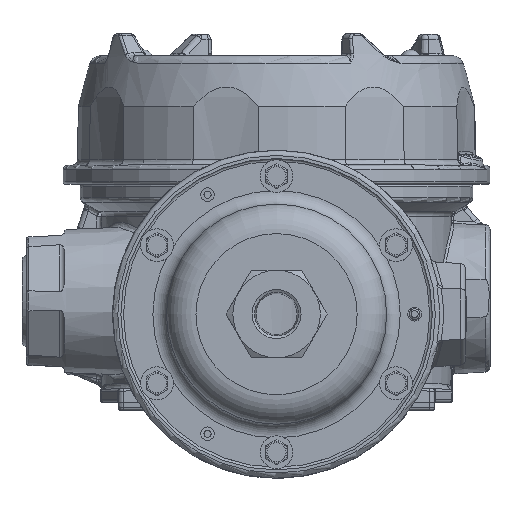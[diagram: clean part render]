
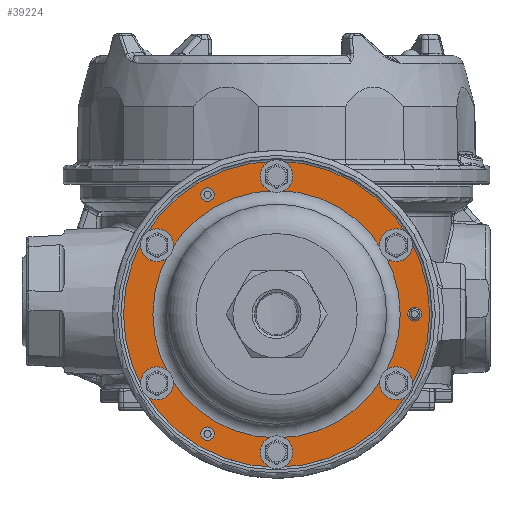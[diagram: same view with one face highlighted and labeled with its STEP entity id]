
A CAD part, top view. The second image highlights one B-rep face of the part: STEP entity #39224.
In plain terms, the highlighted planar face has unit normal (0, 0, 1).
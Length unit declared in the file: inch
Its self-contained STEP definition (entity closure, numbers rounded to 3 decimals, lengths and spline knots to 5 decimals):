
#68 = CARTESIAN_POINT ( 'NONE',  ( -0.828, 1.43414, 4.67916 ) ) ;
#617 = EDGE_LOOP ( 'NONE', ( #3604 ) ) ;
#1641 = EDGE_LOOP ( 'NONE', ( #21512 ) ) ;
#2481 = ORIENTED_EDGE ( 'NONE', *, *, #11905, .F. ) ;
#2584 = EDGE_CURVE ( 'NONE', #19072, #19072, #44091, .T. ) ;
#2721 = VERTEX_POINT ( 'NONE', #39652 ) ;
#2890 = EDGE_LOOP ( 'NONE', ( #19109 ) ) ;
#3604 = ORIENTED_EDGE ( 'NONE', *, *, #20479, .F. ) ;
#3993 = CIRCLE ( 'NONE', #31168, 0.0865 ) ;
#4440 = FACE_BOUND ( 'NONE', #39329, .T. ) ;
#4566 = CIRCLE ( 'NONE', #21629, 0.078 ) ;
#4722 = AXIS2_PLACEMENT_3D ( 'NONE', #4817, #19659, #22804 ) ;
#4817 = CARTESIAN_POINT ( 'NONE',  ( 1.578, 0., 4.67916 ) ) ;
#4920 = FACE_BOUND ( 'NONE', #6723, .T. ) ;
#5013 = DIRECTION ( 'NONE',  ( 0.5, -0.866, 0. ) ) ;
#5847 = DIRECTION ( 'NONE',  ( -0.5, 0.866, 0. ) ) ;
#6407 = ORIENTED_EDGE ( 'NONE', *, *, #43080, .F. ) ;
#6723 = EDGE_LOOP ( 'NONE', ( #2481 ) ) ;
#7296 = DIRECTION ( 'NONE',  ( -0.5, 0.866, 0. ) ) ;
#7684 = ORIENTED_EDGE ( 'NONE', *, *, #2584, .F. ) ;
#7791 = ORIENTED_EDGE ( 'NONE', *, *, #38861, .F. ) ;
#7997 = ORIENTED_EDGE ( 'NONE', *, *, #31312, .F. ) ;
#7998 = CIRCLE ( 'NONE', #42180, 0.0865 ) ;
#8109 = EDGE_LOOP ( 'NONE', ( #39704 ) ) ;
#8450 = CARTESIAN_POINT ( 'NONE',  ( -1.36659, -0.789, 4.67916 ) ) ;
#10758 = CIRCLE ( 'NONE', #37901, 1.41415 ) ;
#11067 = DIRECTION ( 'NONE',  ( 0., 0., 1. ) ) ;
#11438 = CARTESIAN_POINT ( 'NONE',  ( 1.36659, 0.789, 4.67916 ) ) ;
#11624 = VERTEX_POINT ( 'NONE', #29860 ) ;
#11625 = EDGE_LOOP ( 'NONE', ( #45273 ) ) ;
#11867 = VERTEX_POINT ( 'NONE', #12110 ) ;
#11905 = EDGE_CURVE ( 'NONE', #27804, #27804, #35121, .T. ) ;
#12110 = CARTESIAN_POINT ( 'NONE',  ( -1.40984, -0.71409, 4.67916 ) ) ;
#12210 = DIRECTION ( 'NONE',  ( 0., 0., -1. ) ) ;
#12303 = DIRECTION ( 'NONE',  ( 0., 0., -1. ) ) ;
#15030 = VERTEX_POINT ( 'NONE', #44913 ) ;
#15208 = CARTESIAN_POINT ( 'NONE',  ( -0.789, -1.36659, 4.67916 ) ) ;
#15619 = FACE_BOUND ( 'NONE', #22156, .T. ) ;
#16059 = CIRCLE ( 'NONE', #26134, 0.0865 ) ;
#16345 = CARTESIAN_POINT ( 'NONE',  ( 0., -1.578, 4.67916 ) ) ;
#16740 = AXIS2_PLACEMENT_3D ( 'NONE', #41167, #11067, #37029 ) ;
#17488 = AXIS2_PLACEMENT_3D ( 'NONE', #45110, #12303, #5013 ) ;
#17530 = EDGE_CURVE ( 'NONE', #2721, #2721, #47769, .T. ) ;
#18036 = AXIS2_PLACEMENT_3D ( 'NONE', #11438, #40828, #7296 ) ;
#18517 = AXIS2_PLACEMENT_3D ( 'NONE', #16345, #42085, #30935 ) ;
#19072 = VERTEX_POINT ( 'NONE', #68 ) ;
#19109 = ORIENTED_EDGE ( 'NONE', *, *, #26457, .F. ) ;
#19526 = FACE_OUTER_BOUND ( 'NONE', #11625, .T. ) ;
#19659 = DIRECTION ( 'NONE',  ( 0., 0., 1. ) ) ;
#19667 = VERTEX_POINT ( 'NONE', #45649 ) ;
#20108 = AXIS2_PLACEMENT_3D ( 'NONE', #27434, #30847, #45653 ) ;
#20479 = EDGE_CURVE ( 'NONE', #22656, #22656, #4566, .T. ) ;
#20695 = DIRECTION ( 'NONE',  ( 0., 0., 1. ) ) ;
#21240 = DIRECTION ( 'NONE',  ( -0.5, 0.866, 0. ) ) ;
#21512 = ORIENTED_EDGE ( 'NONE', *, *, #31358, .T. ) ;
#21629 = AXIS2_PLACEMENT_3D ( 'NONE', #15208, #29550, #37050 ) ;
#22156 = EDGE_LOOP ( 'NONE', ( #7791 ) ) ;
#22656 = VERTEX_POINT ( 'NONE', #44263 ) ;
#22804 = DIRECTION ( 'NONE',  ( -0.5, 0.866, 0. ) ) ;
#23057 = VERTEX_POINT ( 'NONE', #30594 ) ;
#23396 = FACE_BOUND ( 'NONE', #36064, .T. ) ;
#23628 = DIRECTION ( 'NONE',  ( 0., 0., -1. ) ) ;
#24544 = CARTESIAN_POINT ( 'NONE',  ( 1.36659, -0.789, 4.67916 ) ) ;
#26134 = AXIS2_PLACEMENT_3D ( 'NONE', #24544, #20695, #5847 ) ;
#26457 = EDGE_CURVE ( 'NONE', #42075, #42075, #47755, .T. ) ;
#26773 = CARTESIAN_POINT ( 'NONE',  ( -0.04325, -1.50309, 4.67916 ) ) ;
#27434 = CARTESIAN_POINT ( 'NONE',  ( -0.789, 1.36659, 4.67916 ) ) ;
#27746 = VERTEX_POINT ( 'NONE', #26773 ) ;
#27804 = VERTEX_POINT ( 'NONE', #38713 ) ;
#29550 = DIRECTION ( 'NONE',  ( 0., 0., 1. ) ) ;
#29860 = CARTESIAN_POINT ( 'NONE',  ( 1.539, 0.06755, 4.67916 ) ) ;
#30205 = FACE_BOUND ( 'NONE', #40318, .T. ) ;
#30453 = FACE_BOUND ( 'NONE', #1641, .T. ) ;
#30594 = CARTESIAN_POINT ( 'NONE',  ( 0.70707, -1.22469, 4.67916 ) ) ;
#30847 = DIRECTION ( 'NONE',  ( 0., 0., 1. ) ) ;
#30935 = DIRECTION ( 'NONE',  ( -0.5, 0.866, 0. ) ) ;
#30940 = FACE_BOUND ( 'NONE', #2890, .T. ) ;
#31168 = AXIS2_PLACEMENT_3D ( 'NONE', #44047, #43803, #21240 ) ;
#31312 = EDGE_CURVE ( 'NONE', #27746, #27746, #34799, .T. ) ;
#31358 = EDGE_CURVE ( 'NONE', #23057, #23057, #10758, .T. ) ;
#31985 = CIRCLE ( 'NONE', #4722, 0.078 ) ;
#34799 = CIRCLE ( 'NONE', #18517, 0.0865 ) ;
#34812 = FACE_BOUND ( 'NONE', #8109, .T. ) ;
#35121 = CIRCLE ( 'NONE', #18036, 0.0865 ) ;
#35244 = ORIENTED_EDGE ( 'NONE', *, *, #35308, .F. ) ;
#35308 = EDGE_CURVE ( 'NONE', #15030, #15030, #3993, .T. ) ;
#35497 = CARTESIAN_POINT ( 'NONE',  ( 0., 0., 4.67916 ) ) ;
#35870 = EDGE_CURVE ( 'NONE', #11624, #11624, #31985, .T. ) ;
#36064 = EDGE_LOOP ( 'NONE', ( #35244 ) ) ;
#37029 = DIRECTION ( 'NONE',  ( -0.5, 0.866, 0. ) ) ;
#37050 = DIRECTION ( 'NONE',  ( -0.5, 0.866, 0. ) ) ;
#37509 = AXIS2_PLACEMENT_3D ( 'NONE', #45257, #12210, #41356 ) ;
#37901 = AXIS2_PLACEMENT_3D ( 'NONE', #35497, #23628, #41839 ) ;
#38670 = FACE_BOUND ( 'NONE', #43475, .T. ) ;
#38713 = CARTESIAN_POINT ( 'NONE',  ( 1.32334, 0.86391, 4.67916 ) ) ;
#38861 = EDGE_CURVE ( 'NONE', #11867, #11867, #7998, .T. ) ;
#39224 = ADVANCED_FACE ( 'NONE', ( #34812, #30205, #45510, #4440, #38670, #4920, #30940, #23396, #15619, #19526, #30453 ), #45014, .F. ) ;
#39329 = EDGE_LOOP ( 'NONE', ( #7997 ) ) ;
#39652 = CARTESIAN_POINT ( 'NONE',  ( 0.875, -1.51554, 4.67916 ) ) ;
#39704 = ORIENTED_EDGE ( 'NONE', *, *, #35870, .F. ) ;
#40318 = EDGE_LOOP ( 'NONE', ( #7684 ) ) ;
#40828 = DIRECTION ( 'NONE',  ( 0., 0., 1. ) ) ;
#40986 = DIRECTION ( 'NONE',  ( -0.5, 0.866, 0. ) ) ;
#41167 = CARTESIAN_POINT ( 'NONE',  ( 0., 1.578, 4.67916 ) ) ;
#41356 = DIRECTION ( 'NONE',  ( 0.5, -0.866, 0. ) ) ;
#41718 = DIRECTION ( 'NONE',  ( 0., 0., 1. ) ) ;
#41839 = DIRECTION ( 'NONE',  ( 0.5, -0.866, 0. ) ) ;
#42075 = VERTEX_POINT ( 'NONE', #45491 ) ;
#42085 = DIRECTION ( 'NONE',  ( 0., 0., 1. ) ) ;
#42180 = AXIS2_PLACEMENT_3D ( 'NONE', #8450, #41718, #40986 ) ;
#43080 = EDGE_CURVE ( 'NONE', #19667, #19667, #16059, .T. ) ;
#43475 = EDGE_LOOP ( 'NONE', ( #6407 ) ) ;
#43803 = DIRECTION ( 'NONE',  ( 0., 0., 1. ) ) ;
#44047 = CARTESIAN_POINT ( 'NONE',  ( -1.36659, 0.789, 4.67916 ) ) ;
#44091 = CIRCLE ( 'NONE', #20108, 0.078 ) ;
#44263 = CARTESIAN_POINT ( 'NONE',  ( -0.828, -1.29904, 4.67916 ) ) ;
#44913 = CARTESIAN_POINT ( 'NONE',  ( -1.40984, 0.86391, 4.67916 ) ) ;
#45014 = PLANE ( 'NONE',  #37509 ) ;
#45110 = CARTESIAN_POINT ( 'NONE',  ( 0., 0., 4.67916 ) ) ;
#45257 = CARTESIAN_POINT ( 'NONE',  ( -1.51554, -0.875, 4.67916 ) ) ;
#45273 = ORIENTED_EDGE ( 'NONE', *, *, #17530, .F. ) ;
#45491 = CARTESIAN_POINT ( 'NONE',  ( -0.04325, 1.65291, 4.67916 ) ) ;
#45510 = FACE_BOUND ( 'NONE', #617, .T. ) ;
#45649 = CARTESIAN_POINT ( 'NONE',  ( 1.32334, -0.71409, 4.67916 ) ) ;
#45653 = DIRECTION ( 'NONE',  ( -0.5, 0.866, 0. ) ) ;
#47755 = CIRCLE ( 'NONE', #16740, 0.0865 ) ;
#47769 = CIRCLE ( 'NONE', #17488, 1.75 ) ;
